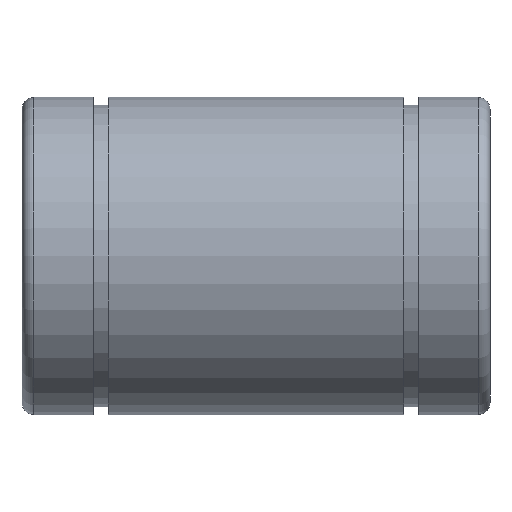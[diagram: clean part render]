
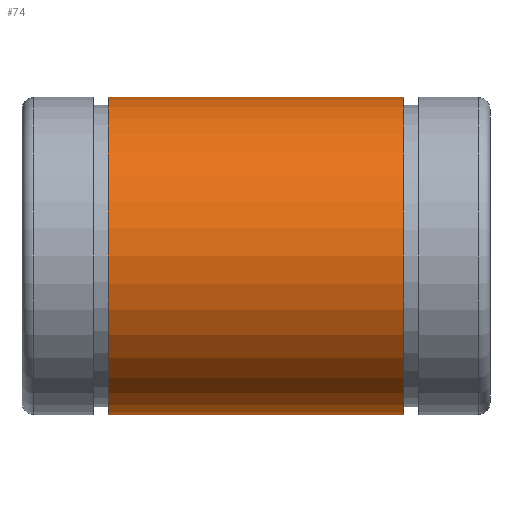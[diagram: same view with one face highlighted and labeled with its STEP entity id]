
A CAD part, front view. The second image highlights one B-rep face of the part: STEP entity #74.
In plain terms, the highlighted cylindrical face has radius 20 mm (diameter 40 mm), a full revolution.
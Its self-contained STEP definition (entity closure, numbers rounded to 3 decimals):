
#74 = ADVANCED_FACE( '', ( #159, #160 ), #161, .T. );
#159 = FACE_OUTER_BOUND( '', #238, .T. );
#160 = FACE_OUTER_BOUND( '', #239, .T. );
#161 = CYLINDRICAL_SURFACE( '', #240, 20. );
#238 = EDGE_LOOP( '', ( #343 ) );
#239 = EDGE_LOOP( '', ( #344 ) );
#240 = AXIS2_PLACEMENT_3D( '', #345, #346, #347 );
#343 = ORIENTED_EDGE( '', *, *, #372, .F. );
#344 = ORIENTED_EDGE( '', *, *, #376, .T. );
#345 = CARTESIAN_POINT( '', ( 29.5, 0., 0. ) );
#346 = DIRECTION( '', ( -1., 0., 0. ) );
#347 = DIRECTION( '', ( 0., 1., 0. ) );
#372 = EDGE_CURVE( '', #419, #419, #420, .T. );
#376 = EDGE_CURVE( '', #425, #425, #426, .T. );
#419 = VERTEX_POINT( '', #473 );
#420 = CIRCLE( '', #474, 20. );
#425 = VERTEX_POINT( '', #479 );
#426 = CIRCLE( '', #480, 20. );
#473 = CARTESIAN_POINT( '', ( 10.85, 20., 0. ) );
#474 = AXIS2_PLACEMENT_3D( '', #531, #532, #533 );
#479 = CARTESIAN_POINT( '', ( 48.15, 20., 0. ) );
#480 = AXIS2_PLACEMENT_3D( '', #537, #538, #539 );
#531 = CARTESIAN_POINT( '', ( 10.85, 0., 0. ) );
#532 = DIRECTION( '', ( -1., 0., 0. ) );
#533 = DIRECTION( '', ( 0., 1., 0. ) );
#537 = CARTESIAN_POINT( '', ( 48.15, 0., 0. ) );
#538 = DIRECTION( '', ( -1., 0., 0. ) );
#539 = DIRECTION( '', ( 0., 1., 0. ) );
